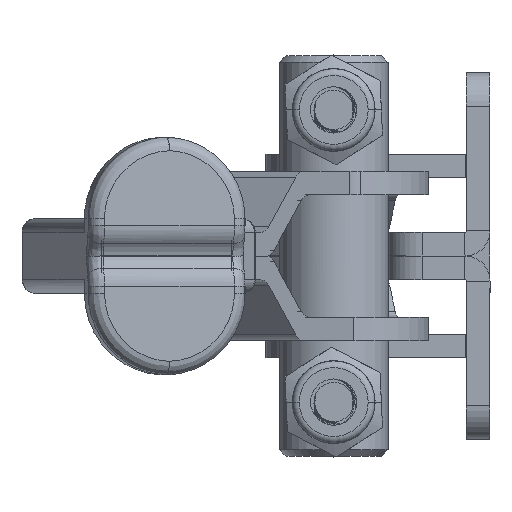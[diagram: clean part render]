
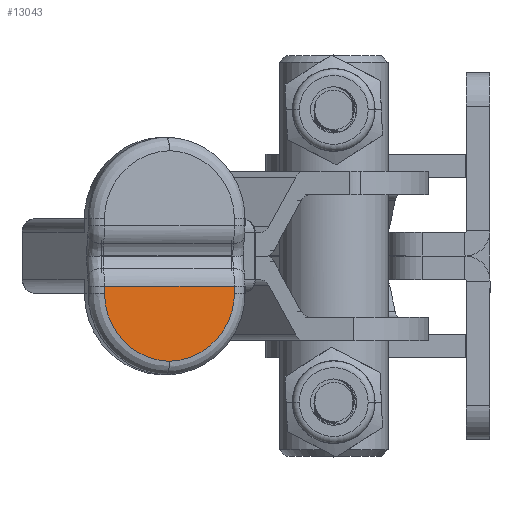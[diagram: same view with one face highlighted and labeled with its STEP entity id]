
A CAD part, left-side view. The second image highlights one B-rep face of the part: STEP entity #13043.
In plain terms, the highlighted planar face has unit normal (-0.977, -0.212, 0) as drawn and (1, 0, 0) by its records, which use the part's own axes.
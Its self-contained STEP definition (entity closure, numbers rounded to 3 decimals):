
#839 = ORIENTED_EDGE ( 'NONE', *, *, #33424, .T. ) ;
#1429 =( BOUNDED_CURVE ( )  B_SPLINE_CURVE ( 3, ( #24523, #1556, #34388, #14793 ),
 .UNSPECIFIED., .F., .F. ) 
 B_SPLINE_CURVE_WITH_KNOTS ( ( 4, 4 ),
 ( 3.142, 4.685 ),
 .UNSPECIFIED. ) 
 CURVE ( )  GEOMETRIC_REPRESENTATION_ITEM ( )  RATIONAL_B_SPLINE_CURVE ( ( 1., 0.811, 0.811, 1. ) ) 
 REPRESENTATION_ITEM ( '' )  );
#1556 = CARTESIAN_POINT ( 'NONE',  ( 164., 65., 25.73 ) ) ;
#2471 = VECTOR ( 'NONE', #17794, 1000. ) ;
#3173 = CARTESIAN_POINT ( 'NONE',  ( 164., 55.224, 29.996 ) ) ;
#3635 = CARTESIAN_POINT ( 'NONE',  ( 164., 55.224, 29.996 ) ) ;
#5033 = PLANE ( 'NONE',  #39339 ) ;
#5150 = CARTESIAN_POINT ( 'NONE',  ( 164., 65., 20. ) ) ;
#6219 = EDGE_CURVE ( 'NONE', #22987, #37745, #35164, .T. ) ;
#6493 = CARTESIAN_POINT ( 'NONE',  ( 164., 45.448, 20. ) ) ;
#8078 = ORIENTED_EDGE ( 'NONE', *, *, #32380, .T. ) ;
#8354 = CARTESIAN_POINT ( 'NONE',  ( 164., 0., 20. ) ) ;
#9546 = EDGE_LOOP ( 'NONE', ( #22895, #10356, #16912, #839, #8078 ) ) ;
#10356 = ORIENTED_EDGE ( 'NONE', *, *, #6219, .T. ) ;
#11461 = CARTESIAN_POINT ( 'NONE',  ( 164., 45.448, 20. ) ) ;
#11655 = EDGE_CURVE ( 'NONE', #42184, #22987, #1429, .T. ) ;
#11660 = DIRECTION ( 'NONE',  ( 0., 0., -1. ) ) ;
#13043 = ADVANCED_FACE ( 'NONE', ( #36135 ), #5033, .T. ) ;
#13143 = CARTESIAN_POINT ( 'NONE',  ( 164., 65., 20. ) ) ;
#14587 = VERTEX_POINT ( 'NONE', #42395 ) ;
#14793 = CARTESIAN_POINT ( 'NONE',  ( 164., 55.224, 29.996 ) ) ;
#16912 = ORIENTED_EDGE ( 'NONE', *, *, #41060, .T. ) ;
#17794 = DIRECTION ( 'NONE',  ( 0., 0., 1. ) ) ;
#19852 = LINE ( 'NONE', #33323, #37276 ) ;
#20899 = LINE ( 'NONE', #5150, #2471 ) ;
#22895 = ORIENTED_EDGE ( 'NONE', *, *, #11655, .T. ) ;
#22987 = VERTEX_POINT ( 'NONE', #3635 ) ;
#24420 = CARTESIAN_POINT ( 'NONE',  ( 164., 45.448, 18.964 ) ) ;
#24523 = CARTESIAN_POINT ( 'NONE',  ( 164., 65., 20. ) ) ;
#24751 = LINE ( 'NONE', #11461, #34470 ) ;
#26114 = CARTESIAN_POINT ( 'NONE',  ( 164., 45.448, 20. ) ) ;
#29279 = CARTESIAN_POINT ( 'NONE',  ( 164., 49.465, 29.838 ) ) ;
#30023 = DIRECTION ( 'NONE',  ( 0., 1., 0. ) ) ;
#31080 = DIRECTION ( 'NONE',  ( 0., 0., -1. ) ) ;
#31259 = DIRECTION ( 'NONE',  ( 1., 0., 0. ) ) ;
#32380 = EDGE_CURVE ( 'NONE', #14587, #42184, #20899, .T. ) ;
#33323 = CARTESIAN_POINT ( 'NONE',  ( 164., 67.218, 18.964 ) ) ;
#33424 = EDGE_CURVE ( 'NONE', #38410, #14587, #19852, .T. ) ;
#34388 = CARTESIAN_POINT ( 'NONE',  ( 164., 60.983, 29.838 ) ) ;
#34470 = VECTOR ( 'NONE', #31080, 1000. ) ;
#35164 =( BOUNDED_CURVE ( )  B_SPLINE_CURVE ( 3, ( #3173, #29279, #39145, #6493 ),
 .UNSPECIFIED., .F., .F. ) 
 B_SPLINE_CURVE_WITH_KNOTS ( ( 4, 4 ),
 ( 1.598, 3.142 ),
 .UNSPECIFIED. ) 
 CURVE ( )  GEOMETRIC_REPRESENTATION_ITEM ( )  RATIONAL_B_SPLINE_CURVE ( ( 1., 0.811, 0.811, 1. ) ) 
 REPRESENTATION_ITEM ( '' )  );
#36135 = FACE_OUTER_BOUND ( 'NONE', #9546, .T. ) ;
#37276 = VECTOR ( 'NONE', #30023, 1000. ) ;
#37745 = VERTEX_POINT ( 'NONE', #26114 ) ;
#38410 = VERTEX_POINT ( 'NONE', #24420 ) ;
#39145 = CARTESIAN_POINT ( 'NONE',  ( 164., 45.448, 25.73 ) ) ;
#39339 = AXIS2_PLACEMENT_3D ( 'NONE', #8354, #31259, #11660 ) ;
#41060 = EDGE_CURVE ( 'NONE', #37745, #38410, #24751, .T. ) ;
#42184 = VERTEX_POINT ( 'NONE', #13143 ) ;
#42395 = CARTESIAN_POINT ( 'NONE',  ( 164., 65., 18.964 ) ) ;
